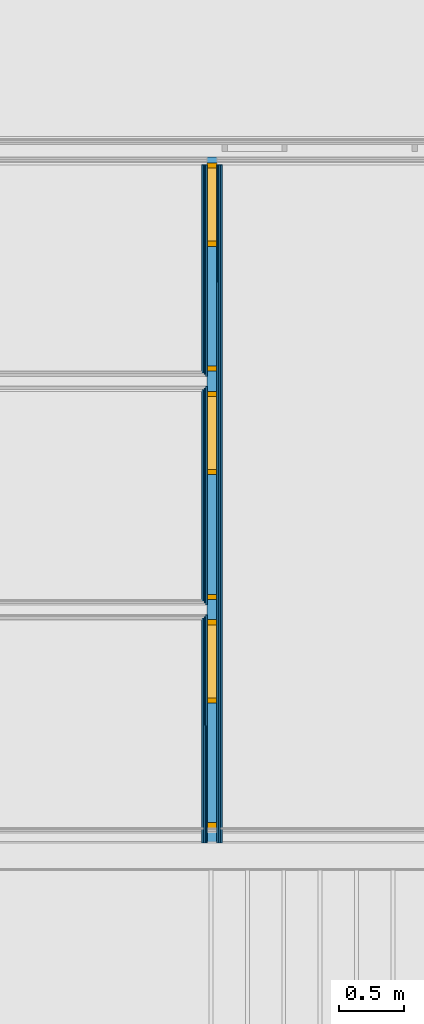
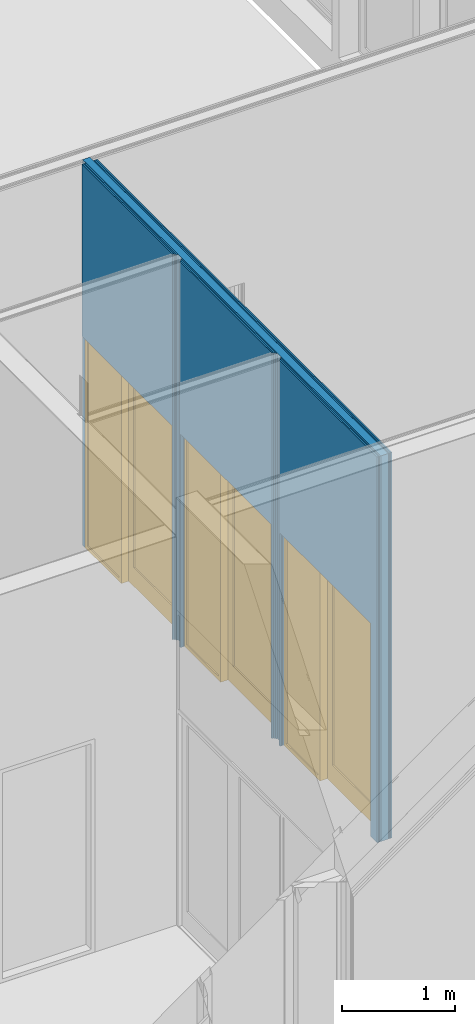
# One storey, part 122 of 260: 7 building element parts, 3 doors, 3 openings, 1 element without a shape of its own.
"""IFC2X3 building model written with IfcOpenShell, lengths in millimetres."""

from ifc_helpers import new_model, entity, si_unit, converted_unit, derived_unit, money_unit, direction, frame, origin_with_axes, place, context, subcontext, project, spatial, open_shell, faceted_brep, surface_model, source, transform, mapped, material, type_object, element, fill, aggregate, save


model = new_model("IFC2X3")

# Units and contexts
model_context = context("Model", 3, precision=0.01, world=origin_with_axes(), true_north=direction((0.0, 1.0)))
body_context = subcontext(model_context, "Body", "Model", "MODEL_VIEW")
ifc_project = project(units=[si_unit("LENGTHUNIT", "METRE", prefix="MILLI"), si_unit("AREAUNIT", "SQUARE_METRE"), si_unit("VOLUMEUNIT", "CUBIC_METRE"), converted_unit("PLANEANGLEUNIT", "DEGREE", entity("IfcPlaneAngleMeasure", 0.0174532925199), si_unit("PLANEANGLEUNIT", "RADIAN"), dimensions=[0, 0, 0, 0, 0, 0, 0]), money_unit("EUR"), converted_unit("TIMEUNIT", "Year", entity("IfcTimeMeasure", 31556926.0), si_unit("TIMEUNIT", "SECOND"), dimensions=[0, 0, 1, 0, 0, 0, 0]), si_unit("MASSUNIT", "GRAM", prefix="KILO"), si_unit("THERMODYNAMICTEMPERATUREUNIT", "DEGREE_CELSIUS"), si_unit("LUMINOUSINTENSITYUNIT", "LUMEN"), si_unit("ENERGYUNIT", "JOULE", prefix="MEGA"), derived_unit("THERMALCONDUCTANCEUNIT", [(si_unit("POWERUNIT", "WATT"), 1), (si_unit("LENGTHUNIT", "METRE"), -1), (si_unit("THERMODYNAMICTEMPERATUREUNIT", "KELVIN"), -1)]), derived_unit("SPECIFICHEATCAPACITYUNIT", [(si_unit("ENERGYUNIT", "JOULE"), 1), (si_unit("MASSUNIT", "GRAM", prefix="KILO"), -1), (si_unit("THERMODYNAMICTEMPERATUREUNIT", "KELVIN"), -1)]), derived_unit("MASSDENSITYUNIT", [(si_unit("MASSUNIT", "GRAM", prefix="KILO"), 1), (si_unit("VOLUMEUNIT", "CUBIC_METRE"), -1)])], contexts=[model_context])

# Site, building, storey
site_placement = place(None, origin_with_axes())
site = spatial("IfcSite", under=ifc_project, at=site_placement, Name="Kolde pst 67a", CompositionType="ELEMENT")
building_placement = place(site_placement, origin_with_axes())
building = spatial("IfcBuilding", under=site, at=building_placement, Name="Riigigümnaasium", CompositionType="ELEMENT")
storey_placement = place(building_placement, origin_with_axes())
storey = spatial("IfcBuildingStorey", under=building, at=storey_placement, Name="1. korrus", CompositionType="ELEMENT", Elevation=0.0)

# Door
door_style = type_object("IfcDoorStyle", Name="Door with Sidelight on Side 2 25", ConstructionType="NOTDEFINED", OperationType="SINGLE_SWING_RIGHT", ParameterTakesPrecedence=False, Sizeable=False)
shared_shape = source(origin_with_axes(), body_context, "Body", "SurfaceModel", [
    faceted_brep([(-800.0, 0.0, 0.0), (-760.0, 0.0, 0.0), (-760.0, -115.0, 0.0), (-800.0, -115.0, 0.0), (-800.0, 0.0, 2260.0), (-760.0, 0.0, 2260.0), (-760.0, 0.0, 40.0), (-760.0, -115.0, 40.0), (-760.0, -115.0, 2260.0), (-800.0, -115.0, 2260.0)], [[[0, 1, 2, 3]], [[0, 4, 5, 6, 1]], [[1, 6, 7, 2]], [[3, 2, 7, 8, 9]], [[4, 0, 3, 9]], [[5, 4, 9, 8]], [[6, 5, 8, 7]]]),
    faceted_brep([(-160.004445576, -40.0, 0.0), (-160.004445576, -40.0, 2260.0), (-160.004445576, -115.0, 2260.0), (-160.004445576, -115.0, 0.0), (-172.004445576, -40.0, 2260.0), (-172.004445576, -40.0, 0.0), (-172.004445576, 0.0, 2260.0), (-200.004445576, 0.0, 2260.0), (-200.004445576, -115.0, 2260.0), (-200.004445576, -115.0, 0.0), (-200.004445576, -115.0, 40.0), (-200.004445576, 0.0, 0.0), (-172.004445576, 0.0, 0.0), (-200.004445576, 0.0, 40.0)], [[[0, 1, 2, 3]], [[4, 1, 0, 5]], [[4, 6, 7, 8, 2, 1]], [[9, 3, 2, 8, 10]], [[5, 0, 3, 9, 11, 12]], [[6, 4, 5, 12]], [[6, 12, 11, 13, 7]], [[13, 10, 8, 7]], [[11, 9, 10, 13]]]),
    faceted_brep([(-760.0, 0.0, 40.0), (-760.0, 0.0, 0.0), (-760.0, -115.0, 0.0), (-760.0, -115.0, 40.0), (-200.004445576, 0.0, 40.0), (-200.004445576, 0.0, 0.0), (-200.004445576, -115.0, 0.0), (-200.004445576, -115.0, 40.0)], [[[0, 1, 2, 3]], [[0, 4, 5, 1]], [[1, 5, 6, 2]], [[3, 2, 6, 7]], [[4, 0, 3, 7]], [[5, 4, 7, 6]]]),
    faceted_brep([(772.0, -40.0, 2260.0), (760.0, -40.0, 2260.0), (760.0, -115.0, 2260.0), (800.0, -115.0, 2260.0), (800.0, 0.0, 2260.0), (772.0, 0.0, 2260.0), (772.0, -40.0, 0.0), (760.0, -40.0, 0.0), (760.0, -115.0, 0.0), (800.0, -115.0, 0.0), (800.0, 0.0, 0.0), (772.0, 0.0, 0.0)], [[[0, 1, 2, 3, 4, 5]], [[1, 0, 6, 7]], [[1, 7, 8, 2]], [[3, 2, 8, 9]], [[4, 3, 9, 10]], [[11, 5, 4, 10]], [[0, 5, 11, 6]], [[6, 11, 10, 9, 8, 7]]]),
    faceted_brep([(-172.004445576, 0.0, 2272.0), (-172.004445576, 0.0, 2260.0), (-200.004445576, 0.0, 2260.0), (-760.0, 0.0, 2260.0), (-800.0, 0.0, 2260.0), (-800.0, 0.0, 2300.0), (800.0, 0.0, 2300.0), (800.0, 0.0, 2260.0), (772.0, 0.0, 2260.0), (772.0, 0.0, 2272.0), (-172.004445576, -40.0, 2272.0), (-172.004445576, -40.0, 2260.0), (760.0, -40.0, 2260.0), (760.0, -115.0, 2260.0), (-160.004445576, -115.0, 2260.0), (-200.004445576, -115.0, 2260.0), (-760.0, -115.0, 2260.0), (-800.0, -115.0, 2260.0), (-800.0, -115.0, 2300.0), (800.0, -115.0, 2300.0), (800.0, -115.0, 2260.0), (772.0, -40.0, 2260.0), (772.0, -40.0, 2272.0)], [[[0, 1, 2, 3, 4, 5, 6, 7, 8, 9]], [[1, 0, 10, 11]], [[11, 12, 13, 14, 15, 2, 1]], [[2, 15, 16, 3]], [[3, 16, 17, 4]], [[4, 17, 18, 5]], [[5, 18, 19, 6]], [[6, 19, 20, 7]], [[21, 8, 7, 20, 13, 12]], [[9, 8, 21, 22]], [[0, 9, 22, 10]], [[21, 12, 11, 10, 22]], [[13, 20, 19, 18, 17, 16, 15, 14]]]),
    faceted_brep([(772.0, 0.0, 200.0), (772.0, -40.0, 200.0), (672.0, -40.0, 200.0), (672.0, 0.0, 200.0), (772.0, 0.0, 2172.0), (772.0, -40.0, 2172.0), (672.0, -40.0, 2172.0), (672.0, 0.0, 2172.0)], [[[0, 1, 2, 3]], [[4, 5, 1, 0]], [[1, 5, 6, 2]], [[3, 2, 6, 7]], [[0, 3, 7, 4]], [[7, 6, 5, 4]]]),
    faceted_brep([(-172.004445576, 0.0, 200.0), (-172.004445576, -40.0, 200.0), (-172.004445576, -40.0, 2172.0), (-172.004445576, 0.0, 2172.0), (-72.0044455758, 0.0, 200.0), (-72.0044455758, -40.0, 200.0), (-72.0044455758, -40.0, 2172.0), (-72.0044455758, 0.0, 2172.0)], [[[0, 1, 2, 3]], [[4, 5, 1, 0]], [[1, 5, 6, 2]], [[3, 2, 6, 7]], [[0, 3, 7, 4]], [[7, 6, 5, 4]]]),
    faceted_brep([(772.0, 0.0, 0.0), (772.0, -40.0, 0.0), (-172.004445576, -40.0, 0.0), (-172.004445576, 0.0, 0.0), (772.0, 0.0, 200.0), (772.0, -40.0, 200.0), (672.0, -40.0, 200.0), (-72.0044455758, -40.0, 200.0), (-172.004445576, -40.0, 200.0), (-172.004445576, 0.0, 200.0), (-72.0044455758, 0.0, 200.0), (672.0, 0.0, 200.0)], [[[0, 1, 2, 3]], [[4, 5, 1, 0]], [[1, 5, 6, 7, 8, 2]], [[3, 2, 8, 9]], [[0, 3, 9, 10, 11, 4]], [[11, 6, 5, 4]], [[10, 7, 6, 11]], [[9, 8, 7, 10]]]),
    faceted_brep([(772.0, 0.0, 2272.0), (772.0, -40.0, 2272.0), (772.0, -40.0, 2172.0), (772.0, 0.0, 2172.0), (-172.004445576, 0.0, 2272.0), (-172.004445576, -40.0, 2272.0), (-172.004445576, -40.0, 2172.0), (-72.0044455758, -40.0, 2172.0), (672.0, -40.0, 2172.0), (672.0, 0.0, 2172.0), (-72.0044455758, 0.0, 2172.0), (-172.004445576, 0.0, 2172.0)], [[[0, 1, 2, 3]], [[4, 5, 1, 0]], [[1, 5, 6, 7, 8, 2]], [[3, 2, 8, 9]], [[0, 3, 9, 10, 11, 4]], [[11, 6, 5, 4]], [[10, 7, 6, 11]], [[9, 8, 7, 10]]]),
    surface_model("IfcShellBasedSurfaceModel", [(672.0, -14.0, 200.0), (-72.0044455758, -14.0, 200.0), (-72.0044455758, -14.0, 2172.0), (672.0, -14.0, 2172.0)], [open_shell([[[0, 1, 2, 3]]])]),
    surface_model("IfcShellBasedSurfaceModel", [(672.0, -26.0, 200.0), (672.0, -26.0, 2172.0), (-72.0044455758, -26.0, 2172.0), (-72.0044455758, -26.0, 200.0)], [open_shell([[[0, 1, 2, 3]]])]),
    surface_model("IfcShellBasedSurfaceModel", [(-760.0, -91.0, 40.0), (-760.0, -91.0, 2260.0), (-200.004445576, -91.0, 2260.0), (-200.004445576, -91.0, 40.0)], [open_shell([[[0, 1, 2, 3]]])]),
    surface_model("IfcShellBasedSurfaceModel", [(-760.0, -103.0, 40.0), (-200.004445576, -103.0, 40.0), (-200.004445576, -103.0, 2260.0), (-760.0, -103.0, 2260.0)], [open_shell([[[0, 1, 2, 3]]])]),
])
wall_placement = place(storey_placement, frame((78930.5888447, 16330.0043142, 0.0), z_axis=(0.0, 0.0, 1.0), x_axis=(2.63815701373e-05, -0.999999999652, 0.0)))
opening_1_placement = place(wall_placement, frame((1005.04237525, 0.0, 0.0), z_axis=(0.0, 0.0, 1.0), x_axis=(1.0, 0.0, 0.0)))
door_1_placement = place(opening_1_placement, frame((-800.0, 0.0, 0.0), z_axis=(0.0, 0.0, 1.0), x_axis=(1.0, 0.0, 0.0)))
door_1 = element("IfcDoor", 1, at=door_1_placement, inside=storey, type_object=door_style, Name="Siseuks", ObjectType="DOOR", OverallHeight=2300.0, OverallWidth=1600.0, context=body_context, shape_type="MappedRepresentation", body=[
    mapped(shared_shape, transform((800.0, 0.0, 0.0))),
])

opening_2_placement = place(wall_placement, frame((2760.0423753, 0.0, 0.0), z_axis=(0.0, 0.0, 1.0), x_axis=(1.0, 0.0, 0.0)))
door_2_placement = place(opening_2_placement, frame((-800.0, 0.0, 0.0), z_axis=(0.0, 0.0, 1.0), x_axis=(1.0, 0.0, 0.0)))
door_2 = element("IfcDoor", 2, at=door_2_placement, inside=storey, type_object=door_style, Name="Siseuks", ObjectType="DOOR", OverallHeight=2300.0, OverallWidth=1600.0, context=body_context, shape_type="MappedRepresentation", body=[
    mapped(shared_shape, transform((800.0, 0.0, 0.0))),
])

opening_3_placement = place(wall_placement, frame((4515.04237535, 0.0, 0.0), z_axis=(0.0, 0.0, 1.0), x_axis=(1.0, 0.0, 0.0)))
door_3_placement = place(opening_3_placement, frame((-800.0, 0.0, 0.0), z_axis=(0.0, 0.0, 1.0), x_axis=(1.0, 0.0, 0.0)))
door_3 = element("IfcDoor", 3, at=door_3_placement, inside=storey, type_object=door_style, Name="Siseuks", ObjectType="DOOR", OverallHeight=2300.0, OverallWidth=1600.0, context=body_context, shape_type="MappedRepresentation", body=[
    mapped(shared_shape, transform((800.0, 0.0, 0.0))),
])

# Wall, opening
wall_type = type_object("IfcWallType", Name="SS-MK-7,5/1_plaaditud 155", PredefinedType="NOTDEFINED")
wall = element("IfcWall", 4, at=wall_placement, inside=storey, type_object=wall_type, Name="Sisesein")
opening_1 = element("IfcOpeningElement", 5, at=opening_1_placement, cuts=wall, Name="Siseuks", context=body_context, shape_type="Brep", body=[
    faceted_brep([(800.0, -155.0, 2300.0), (800.0, -155.0, 0.0), (800.0, 310.0, 0.0), (800.0, 310.0, 2300.0), (-800.0, -155.0, 2300.0), (-800.0, -155.0, 0.0), (-800.0, 310.0, 0.0), (-800.0, 310.0, 2300.0)], [[[0, 1, 2, 3]], [[0, 4, 5, 1]], [[1, 5, 6, 2]], [[3, 2, 6, 7]], [[4, 0, 3, 7]], [[5, 4, 7, 6]]]),
])

fill(opening_1, door_1)

# Opening
opening_2 = element("IfcOpeningElement", 6, at=opening_2_placement, cuts=wall, Name="Siseuks", context=body_context, shape_type="Brep", body=[
    faceted_brep([(800.0, -155.0, 2300.0), (800.0, -155.0, 0.0), (800.0, 310.0, 0.0), (800.0, 310.0, 2300.0), (-800.0, -155.0, 2300.0), (-800.0, -155.0, 0.0), (-800.0, 310.0, 0.0), (-800.0, 310.0, 2300.0)], [[[0, 1, 2, 3]], [[0, 4, 5, 1]], [[1, 5, 6, 2]], [[3, 2, 6, 7]], [[4, 0, 3, 7]], [[5, 4, 7, 6]]]),
])

fill(opening_2, door_2)

opening_3 = element("IfcOpeningElement", 7, at=opening_3_placement, cuts=wall, Name="Siseuks", context=body_context, shape_type="Brep", body=[
    faceted_brep([(800.0, -155.0, 2300.0), (800.0, -155.0, 0.0), (800.0, 310.0, 0.0), (800.0, 310.0, 2300.0), (-800.0, -155.0, 2300.0), (-800.0, -155.0, 0.0), (-800.0, 310.0, 0.0), (-800.0, 310.0, 2300.0)], [[[0, 1, 2, 3]], [[0, 4, 5, 1]], [[1, 5, 6, 2]], [[3, 2, 6, 7]], [[4, 0, 3, 7]], [[5, 4, 7, 6]]]),
])

fill(opening_3, door_3)

# Building element part
ifc_material_1 = material(Name="_VIIMISTLUSKIHT - viimistlus vastavalt SA osale")
building_element_part_1_placement = place(wall_placement, origin_with_axes())
building_element_part_1 = element("IfcBuildingElementPart", 8, at=building_element_part_1_placement, material=ifc_material_1, Name="_VIIMISTLUSKIHT - viimistlus vastavalt SA osale", context=body_context, shape_type="Brep", body=[
    faceted_brep([(3715.04237535, 0.0, 2300.0), (3715.04237535, 0.0, 0.0), (3560.0423753, 0.0, 0.0), (3560.0423753, 0.0, 2300.0), (1960.0423753, 0.0, 2300.0), (1960.0423753, 0.0, 0.0), (1805.04237525, 0.0, 0.0), (1805.04237525, 0.0, 2300.0), (220.000000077, 0.0, 2300.0), (220.000000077, 0.0, 4156.9), (5429.9879552, -2.28439489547e-07, 4156.9), (5429.98165532, 0.0, 0.0), (5315.04237535, 0.0, 0.0), (5315.04237535, 0.0, 2300.0), (3715.04237535, -15.0000002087, 2300.0), (3715.04237535, -15.0, 0.0), (3560.0423753, -15.0, 0.0), (3560.0423753, -15.0000002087, 2300.0), (1960.0423753, -15.0000002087, 2300.0), (1960.0423753, -15.0, 0.0), (1805.04237525, -15.0, 0.0), (1805.04237525, -15.0000002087, 2300.0), (219.999604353, -15.0, 2300.0), (219.999604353, -15.0, 4156.9), (5429.9874113, -15.0000002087, 4156.9), (5429.98165532, -15.0, 0.0), (5315.04237535, -15.0, 0.0), (5315.04237535, -15.0000002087, 2300.0)], [[[0, 1, 2, 3, 4, 5, 6, 7, 8, 9, 10, 11, 12, 13]], [[1, 0, 14, 15]], [[1, 15, 16, 2]], [[2, 16, 17, 3]], [[3, 17, 18, 4]], [[4, 18, 19, 5]], [[19, 20, 6, 5]], [[20, 21, 7, 6]], [[21, 22, 8, 7]], [[23, 9, 8, 22]], [[23, 24, 10, 9]], [[11, 10, 24, 25]], [[26, 12, 11, 25]], [[13, 12, 26, 27]], [[0, 13, 27, 14]], [[27, 26, 25, 24, 23, 22, 21, 20, 19, 18, 17, 16, 15, 14]]]),
])

ifc_material_2 = material(Name="_PLAATMATERJAL - kipsplaat veekindel")
building_element_part_2_placement = place(wall_placement, origin_with_axes())
building_element_part_2 = element("IfcBuildingElementPart", 9, at=building_element_part_2_placement, material=ifc_material_2, Name="_PLAATMATERJAL - kipsplaat veekindel", context=body_context, shape_type="Brep", body=[
    faceted_brep([(3715.04237535, -15.0, 2300.0), (3715.04237535, -15.0, 0.0), (3560.0423753, -15.0, 0.0), (3560.0423753, -15.0, 2300.0), (1960.0423753, -15.0, 2300.0), (1960.0423753, -15.0, 0.0), (1805.04237525, -15.0, 0.0), (1805.04237525, -15.0, 2300.0), (219.999604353, -15.0, 2300.0), (219.999604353, -15.0, 4156.9), (5429.9874113, -15.0000002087, 4156.9), (5429.98165532, -15.0, 0.0), (5315.04237535, -15.0, 0.0), (5315.04237535, -15.0, 2300.0), (3715.04237535, -27.5000001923, 2300.0), (3715.04237535, -27.5, 0.0), (3560.0423753, -27.5, 0.0), (3560.0423753, -27.5000001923, 2300.0), (1960.0423753, -27.5000001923, 2300.0), (1960.0423753, -27.5, 0.0), (1805.04237525, -27.5, 0.0), (1805.04237525, -27.5000001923, 2300.0), (219.999274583, -27.5, 2300.0), (219.999274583, -27.5, 4156.9), (5429.98695806, -27.5000001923, 4156.9), (5429.98165532, -27.5, 0.0), (5315.04237535, -27.5, 0.0), (5315.04237535, -27.5000001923, 2300.0)], [[[0, 1, 2, 3, 4, 5, 6, 7, 8, 9, 10, 11, 12, 13]], [[1, 0, 14, 15]], [[1, 15, 16, 2]], [[2, 16, 17, 3]], [[3, 17, 18, 4]], [[4, 18, 19, 5]], [[19, 20, 6, 5]], [[20, 21, 7, 6]], [[21, 22, 8, 7]], [[23, 9, 8, 22]], [[23, 24, 10, 9]], [[11, 10, 24, 25]], [[26, 12, 11, 25]], [[13, 12, 26, 27]], [[0, 13, 27, 14]], [[27, 26, 25, 24, 23, 22, 21, 20, 19, 18, 17, 16, 15, 14]]]),
])

building_element_part_3_placement = place(wall_placement, origin_with_axes())
building_element_part_3 = element("IfcBuildingElementPart", 10, at=building_element_part_3_placement, material=ifc_material_2, Name="_PLAATMATERJAL - kipsplaat veekindel", context=body_context, shape_type="Brep", body=[
    faceted_brep([(3715.04237535, -27.5, 2300.0), (3715.04237535, -27.5, 0.0), (3560.0423753, -27.5, 0.0), (3560.0423753, -27.5, 2300.0), (1960.0423753, -27.5, 2300.0), (1960.0423753, -27.5, 0.0), (1805.04237525, -27.5, 0.0), (1805.04237525, -27.5, 2300.0), (219.999274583, -27.5, 2300.0), (219.999274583, -27.5, 4156.9), (5429.98695806, -27.5000001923, 4156.9), (5429.98165532, -27.5, 0.0), (5315.04237535, -27.5, 0.0), (5315.04237535, -27.5, 2300.0), (3715.04237535, -40.0000001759, 2300.0), (3715.04237535, -40.0, 0.0), (3560.0423753, -40.0, 0.0), (3560.0423753, -40.0000001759, 2300.0), (1960.0423753, -40.0000001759, 2300.0), (1960.0423753, -40.0, 0.0), (1805.04237525, -40.0, 0.0), (1805.04237525, -40.0000001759, 2300.0), (219.998944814, -40.0, 2300.0), (219.998944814, -40.0, 4156.9), (5429.98650482, -40.0000001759, 4156.9), (5429.98165532, -40.0, 0.0), (5315.04237535, -40.0, 0.0), (5315.04237535, -40.0000001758, 2300.0)], [[[0, 1, 2, 3, 4, 5, 6, 7, 8, 9, 10, 11, 12, 13]], [[1, 0, 14, 15]], [[1, 15, 16, 2]], [[2, 16, 17, 3]], [[3, 17, 18, 4]], [[4, 18, 19, 5]], [[19, 20, 6, 5]], [[20, 21, 7, 6]], [[21, 22, 8, 7]], [[23, 9, 8, 22]], [[23, 24, 10, 9]], [[11, 10, 24, 25]], [[26, 12, 11, 25]], [[13, 12, 26, 27]], [[0, 13, 27, 14]], [[27, 26, 25, 24, 23, 22, 21, 20, 19, 18, 17, 16, 15, 14]]]),
])

ifc_material_3 = material(Name="_KARKASS - metallkarkass CW 75/50, mineraalvill karkassi vahel")
building_element_part_4_placement = place(wall_placement, origin_with_axes())
building_element_part_4 = element("IfcBuildingElementPart", 11, at=building_element_part_4_placement, material=ifc_material_3, Name="_KARKASS - metallkarkass CW 75/50, mineraalvill karkassi vahel", context=body_context, shape_type="Brep", body=[
    faceted_brep([(3715.04237535, -40.0000000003, 2300.0), (3715.04237535, -40.0, 0.0), (3560.0423753, -40.0, 0.0), (3560.0423753, -40.0000000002, 2300.0), (1960.0423753, -39.9999999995, 2300.0), (1960.0423753, -40.0, 0.0), (1805.04237525, -40.0, 0.0), (1805.04237525, -39.9999999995, 2300.0), (205.042375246, -39.9999999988, 2300.0), (205.042375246, -40.0, 0.0), (159.998944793, -40.0, 0.0), (159.998944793, -39.9999999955, 4156.9), (5429.98165532, -40.0, 4156.9), (5429.98165532, -40.0, 0.0), (5315.04237535, -40.0, 0.0), (5315.04237535, -40.000000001, 2300.0), (3715.04237535, -115.000000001, 2300.0), (3715.04237535, -115.0, 0.0), (3560.0423753, -115.0, 0.0), (3560.0423753, -115.000000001, 2300.0), (1960.0423753, -114.999999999, 2300.0), (1960.0423753, -115.0, 0.0), (1805.04237525, -115.0, 0.0), (1805.04237525, -114.999999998, 2300.0), (205.042375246, -114.999999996, 2300.0), (205.042375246, -115.0, 0.0), (159.996966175, -115.0, 0.0), (159.996966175, -114.999999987, 4156.9), (5429.98165532, -115.0, 4156.9), (5429.98165532, -115.0, 0.0), (5315.04237535, -115.0, 0.0), (5315.04237535, -115.000000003, 2300.0)], [[[0, 1, 2, 3, 4, 5, 6, 7, 8, 9, 10, 11, 12, 13, 14, 15]], [[1, 0, 16, 17]], [[1, 17, 18, 2]], [[2, 18, 19, 3]], [[3, 19, 20, 4]], [[4, 20, 21, 5]], [[21, 22, 6, 5]], [[22, 23, 7, 6]], [[23, 24, 8, 7]], [[24, 25, 9, 8]], [[26, 10, 9, 25]], [[10, 26, 27, 11]], [[11, 27, 28, 12]], [[28, 29, 13, 12]], [[30, 14, 13, 29]], [[15, 14, 30, 31]], [[0, 15, 31, 16]], [[31, 30, 29, 28, 27, 26, 25, 24, 23, 22, 21, 20, 19, 18, 17, 16]]]),
])

building_element_part_5_placement = place(wall_placement, origin_with_axes())
building_element_part_5 = element("IfcBuildingElementPart", 12, at=building_element_part_5_placement, material=ifc_material_2, Name="_PLAATMATERJAL - kipsplaat veekindel", context=body_context, shape_type="Brep", body=[
    faceted_brep([(1960.0423753, -115.0, 2300.0), (1960.0423753, -115.0, 0.0), (1920.04341709, -115.0, 0.0), (1920.04341709, -115.0, 4156.9), (3600.04341712, -115.0, 4156.9), (3600.04341712, -115.0, 0.0), (3560.0423753, -115.0, 0.0), (3560.0423753, -115.0, 2300.0), (1960.0423753, -127.5, 2300.0), (1960.0423753, -127.5, 0.0), (1920.04309153, -127.5, 0.0), (1920.04309153, -127.5, 4156.9), (3600.04309155, -127.5, 4156.9), (3600.04309155, -127.5, 0.0), (3560.0423753, -127.5, 0.0), (3560.0423753, -127.5, 2300.0)], [[[0, 1, 2, 3, 4, 5, 6, 7]], [[1, 0, 8, 9]], [[1, 9, 10, 2]], [[11, 3, 2, 10]], [[12, 4, 3, 11]], [[13, 5, 4, 12]], [[14, 6, 5, 13]], [[7, 6, 14, 15]], [[0, 7, 15, 8]], [[15, 14, 13, 12, 11, 10, 9, 8]]]),
    faceted_brep([(1805.04237525, -115.0, 2300.0), (219.996966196, -115.0, 2300.0), (219.996966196, -115.0, 4156.9), (1845.04341707, -115.0, 4156.9), (1845.04341707, -115.0, 0.0), (1805.04237525, -115.0, 0.0), (1805.04237525, -127.5, 2300.0), (219.996636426, -127.5, 2300.0), (219.996636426, -127.5, 4156.9), (1845.0430915, -127.5, 4156.9), (1845.0430915, -127.5, 0.0), (1805.04237525, -127.5, 0.0)], [[[0, 1, 2, 3, 4, 5]], [[1, 0, 6, 7]], [[1, 7, 8, 2]], [[9, 3, 2, 8]], [[4, 3, 9, 10]], [[11, 5, 4, 10]], [[0, 5, 11, 6]], [[6, 11, 10, 9, 8, 7]]]),
    faceted_brep([(3715.04237535, -115.0, 2300.0), (3715.04237535, -115.0, 0.0), (3675.04341714, -115.0, 0.0), (3675.04341714, -115.0, 4156.9), (5429.98165532, -115.0, 4156.9), (5429.98165532, -115.0, 0.0), (5315.04237535, -115.0, 0.0), (5315.04237535, -115.0, 2300.0), (3715.04237535, -127.5, 2300.0), (3715.04237535, -127.5, 0.0), (3675.04309158, -127.5, 0.0), (3675.04309158, -127.5, 4156.9), (5429.98165532, -127.5, 4156.9), (5429.98165532, -127.5, 0.0), (5315.04237535, -127.5, 0.0), (5315.04237535, -127.5, 2300.0)], [[[0, 1, 2, 3, 4, 5, 6, 7]], [[1, 0, 8, 9]], [[1, 9, 10, 2]], [[11, 3, 2, 10]], [[12, 4, 3, 11]], [[5, 4, 12, 13]], [[14, 6, 5, 13]], [[7, 6, 14, 15]], [[0, 7, 15, 8]], [[15, 14, 13, 12, 11, 10, 9, 8]]]),
])

building_element_part_6_placement = place(wall_placement, origin_with_axes())
building_element_part_6 = element("IfcBuildingElementPart", 13, at=building_element_part_6_placement, material=ifc_material_2, Name="_PLAATMATERJAL - kipsplaat veekindel", context=body_context, shape_type="Brep", body=[
    faceted_brep([(1960.0423753, -127.5, 2300.0), (1960.0423753, -127.5, 0.0), (1932.54309153, -127.5, 0.0), (1932.54309153, -127.5, 4156.9), (3587.54309155, -127.5, 4156.9), (3587.54309155, -127.5, 0.0), (3560.0423753, -127.5, 0.0), (3560.0423753, -127.5, 2300.0), (1960.0423753, -140.0, 2300.0), (1960.0423753, -140.0, 0.0), (1932.54276597, -140.0, 0.0), (1932.54276597, -140.0, 4156.9), (3587.54276599, -140.0, 4156.9), (3587.54276599, -140.0, 0.0), (3560.0423753, -140.0, 0.0), (3560.0423753, -140.0, 2300.0)], [[[0, 1, 2, 3, 4, 5, 6, 7]], [[1, 0, 8, 9]], [[1, 9, 10, 2]], [[11, 3, 2, 10]], [[12, 4, 3, 11]], [[13, 5, 4, 12]], [[14, 6, 5, 13]], [[7, 6, 14, 15]], [[0, 7, 15, 8]], [[15, 14, 13, 12, 11, 10, 9, 8]]]),
    faceted_brep([(1805.04237525, -127.5, 2300.0), (219.996636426, -127.5, 2300.0), (219.996636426, -127.5, 4156.9), (1832.5430915, -127.5, 4156.9), (1832.5430915, -127.5, 0.0), (1805.04237525, -127.5, 0.0), (1805.04237525, -140.0, 2300.0), (219.996306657, -140.0, 2300.0), (219.996306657, -140.0, 4156.9), (1832.54276593, -140.0, 4156.9), (1832.54276593, -140.0, 0.0), (1805.04237525, -140.0, 0.0)], [[[0, 1, 2, 3, 4, 5]], [[1, 0, 6, 7]], [[1, 7, 8, 2]], [[9, 3, 2, 8]], [[4, 3, 9, 10]], [[11, 5, 4, 10]], [[0, 5, 11, 6]], [[6, 11, 10, 9, 8, 7]]]),
    faceted_brep([(3715.04237535, -127.5, 2300.0), (3715.04237535, -127.5, 0.0), (3687.54309158, -127.5, 0.0), (3687.54309158, -127.5, 4156.9), (5429.98165532, -127.5, 4156.9), (5429.98165532, -127.5, 0.0), (5315.04237535, -127.5, 0.0), (5315.04237535, -127.5, 2300.0), (3715.04237535, -140.0, 2300.0), (3715.04237535, -140.0, 0.0), (3687.54276602, -140.0, 0.0), (3687.54276602, -140.0, 4156.9), (5429.98165532, -140.0, 4156.9), (5429.98165532, -140.0, 0.0), (5315.04237535, -140.0, 0.0), (5315.04237535, -140.0, 2300.0)], [[[0, 1, 2, 3, 4, 5, 6, 7]], [[1, 0, 8, 9]], [[1, 9, 10, 2]], [[11, 3, 2, 10]], [[12, 4, 3, 11]], [[5, 4, 12, 13]], [[14, 6, 5, 13]], [[7, 6, 14, 15]], [[0, 7, 15, 8]], [[15, 14, 13, 12, 11, 10, 9, 8]]]),
])

building_element_part_7_placement = place(wall_placement, origin_with_axes())
building_element_part_7 = element("IfcBuildingElementPart", 14, at=building_element_part_7_placement, material=ifc_material_1, Name="_VIIMISTLUSKIHT - viimistlus vastavalt SA osale", context=body_context, shape_type="Brep", body=[
    faceted_brep([(1960.0423753, -140.0, 2300.0), (1960.0423753, -140.0, 0.0), (1945.04276597, -140.0, 0.0), (1945.04276597, -140.0, 4156.9), (3575.04276598, -140.0, 4156.9), (3575.04276598, -140.0, 0.0), (3560.0423753, -140.0, 0.0), (3560.0423753, -140.0, 2300.0), (1960.0423753, -155.0, 2300.0), (1960.0423753, -155.0, 0.0), (1945.04237529, -155.0, 0.0), (1945.04237529, -155.0, 4156.9), (3575.0423753, -155.0, 4156.9), (3575.0423753, -155.0, 0.0), (3560.0423753, -155.0, 0.0), (3560.0423753, -155.0, 2300.0)], [[[0, 1, 2, 3, 4, 5, 6, 7]], [[1, 0, 8, 9]], [[1, 9, 10, 2]], [[11, 3, 2, 10]], [[12, 4, 3, 11]], [[13, 5, 4, 12]], [[14, 6, 5, 13]], [[7, 6, 14, 15]], [[0, 7, 15, 8]], [[15, 14, 13, 12, 11, 10, 9, 8]]]),
    faceted_brep([(1805.04237525, -140.0, 2300.0), (219.996306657, -140.0, 2300.0), (219.996306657, -140.0, 4156.9), (1820.04276593, -140.0, 4156.9), (1820.04276593, -140.0, 0.0), (1805.04237525, -140.0, 0.0), (1805.04237525, -155.0, 2300.0), (219.995910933, -155.0, 2300.0), (219.995910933, -155.0, 4156.9), (1820.04237525, -155.0, 4156.9), (1820.04237525, -155.0, 0.0), (1805.04237525, -155.0, 0.0)], [[[0, 1, 2, 3, 4, 5]], [[1, 0, 6, 7]], [[1, 7, 8, 2]], [[9, 3, 2, 8]], [[4, 3, 9, 10]], [[11, 5, 4, 10]], [[0, 5, 11, 6]], [[6, 11, 10, 9, 8, 7]]]),
    faceted_brep([(3715.04237535, -140.0, 2300.0), (3715.04237535, -140.0, 0.0), (3700.04276602, -140.0, 0.0), (3700.04276602, -140.0, 4156.9), (5429.98165532, -140.0, 4156.9), (5429.98165532, -140.0, 0.0), (5315.04237535, -140.0, 0.0), (5315.04237535, -140.0, 2300.0), (3715.04237535, -155.0, 2300.0), (3715.04237535, -155.0, 0.0), (3700.04237535, -155.0, 0.0), (3700.04237535, -155.0, 4156.9), (5429.98165532, -155.0, 4156.9), (5429.98165532, -155.0, 0.0), (5315.04237535, -155.0, 0.0), (5315.04237535, -155.0, 2300.0)], [[[0, 1, 2, 3, 4, 5, 6, 7]], [[1, 0, 8, 9]], [[1, 9, 10, 2]], [[11, 3, 2, 10]], [[12, 4, 3, 11]], [[5, 4, 12, 13]], [[14, 6, 5, 13]], [[7, 6, 14, 15]], [[0, 7, 15, 8]], [[15, 14, 13, 12, 11, 10, 9, 8]]]),
])

aggregate(wall, [building_element_part_1, building_element_part_2, building_element_part_3, building_element_part_4, building_element_part_5, building_element_part_6, building_element_part_7])

save(model, "model.ifc")
